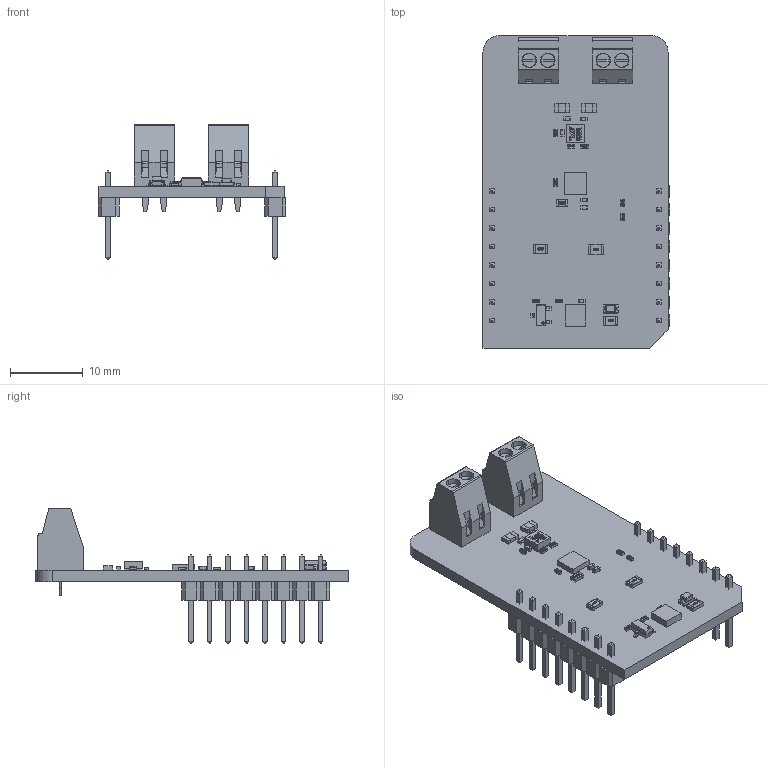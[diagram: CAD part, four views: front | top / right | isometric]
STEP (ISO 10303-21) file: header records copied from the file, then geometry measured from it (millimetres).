
FILE_DESCRIPTION(('Open CASCADE Model'),'2;1');
FILE_NAME('Open CASCADE Shape Model','2025-12-17T10:03:34',('Author'),( 'Open CASCADE'),'Open CASCADE STEP processor 6.8','Open CASCADE 6.8' ,'Unknown');
FILE_SCHEMA(('AUTOMOTIVE_DESIGN { 1 0 10303 214 1 1 1 1 }'));
Length unit declared in the file: millimetre
Products named in the file (52): PCB; Board; R1; User_Library-R_0805; LD1; led_0805_green; R2; User_Library-R_0402; C1; User_Library-SMD_CAPACITOR0402; R4; Q1; SOT23-3; U1; 995331616; Extruded; JP2; U4; 1505191592; U3; STEP_171010550+%28rev1%29; Base; Housing; SolderPins; VOUT; ScrewTerminal_2.54; VIN; R10; R9; R8; R7; R6; R5; C8; C7; C6; C5; C4; User_Library-SMD_CAPACITOR0805; C3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
Assembly tree (69 placements, depth 7):
  PCB
    Board
    R1
      User_Library-R_0805
    LD1
      led_0805_green
    R2
      User_Library-R_0402
    C1
      User_Library-SMD_CAPACITOR0402
    R4
      User_Library-R_0402
    Q1
      SOT23-3
    U1
      995331616
        Extruded
    JP2
      User_Library-R_0805
    U4
      1505191592
        Extruded
    U3
      STEP_171010550+%28rev1%29
        Base
        Housing
        SolderPins
    VOUT
      ScrewTerminal_2.54
    VIN
      ScrewTerminal_2.54
    R10
      User_Library-R_0402
    R9
      User_Library-R_0402
    R8
      User_Library-R_0402
    R7
      User_Library-R_0402
    R6
      User_Library-R_0402
    R5
      User_Library-R_0402
    C8
      User_Library-SMD_CAPACITOR0402
    C7
      User_Library-SMD_CAPACITOR0402
    C6
      User_Library-SMD_CAPACITOR0402
    C5
      User_Library-SMD_CAPACITOR0402
    C4
      User_Library-SMD_CAPACITOR0805
    C3
      User_Library-SMD_CAPACITOR0805
    C2
      User_Library-SMD_CAPACITOR0402
    MBD1
      Header_1x8  x2
        PCB
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Bounding box: 25.78 x 42.93 x 18.61 mm (x, y, z)
Volume: 2583.3 mm3; surface area: 5306.2 mm2
Topology: 92 solids, 92 shells, 2571 faces, 6419 edges, 4098 vertices
Faces by surface type: plane 1858, bspline 407, cylinder 236, sphere 70
Full cylindrical faces by diameter (mm): 0.25 x1
Entity records: 41499 total; most frequent: CARTESIAN_POINT 13645, ORIENTED_EDGE 4926, DIRECTION 4131, EDGE_CURVE 2463, LINE 1851, VECTOR 1851, VERTEX_POINT 1598, AXIS2_PLACEMENT_3D 1140
